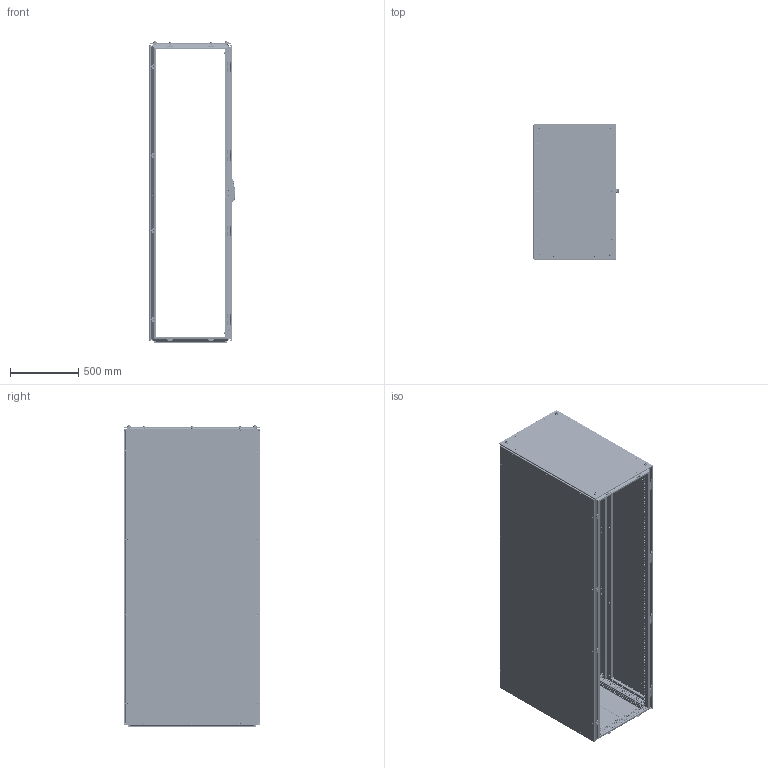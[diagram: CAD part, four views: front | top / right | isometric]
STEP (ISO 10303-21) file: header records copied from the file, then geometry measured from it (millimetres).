
FILE_DESCRIPTION(('STEP AP203'), '1');
FILE_NAME('ØÍÑ ÊÑ PRO II Êîðïóñ ÑÁ', '', ('UNSPECIFIED'), ('UNSPECIFIED'), 'C3D Converter', 'C3D Toolkit', '');
FILE_SCHEMA(('CONFIG_CONTROL_DESIGN'));
Length unit declared in the file: millimetre
Products named in the file (56): 3210.220.100.60; 3000; 3007.175; 3007.75; 3007.200; 3006; 3009.04; 3009.04.01; 3009.04.2; 3009.04.01.2; 3301; 3310; 3311; 3302; 3211; 3409; 3415; 3425; 3426; 3422.01; 3412; 3411; 2952; 3009.05; 3009.05.01; 3622.01; 3417; 3427; 3010
Assembly tree (393 placements, depth 6):
  3210.220.100.60
    3000
      3000
      (unnamed)  x96
      3007.175  x2
      (unnamed)  x22
      3007.75  x2
      3007.200  x2
      3006
      3009.04  x10
        3009.04.01
        (unnamed)
        (unnamed)
      3009.04.2  x15
        3009.04.01.2
        (unnamed)
        (unnamed)
    3301
      3310
        3311
        (unnamed)
      (unnamed)  x10
      (unnamed)  x10
      (unnamed)  x4
      (unnamed)  x4
    3302
      3211
      (unnamed)  x2
      (unnamed)  x14
    3409
      3415
        3425
          3426
          3422.01  x4
          (unnamed)  x12
          (unnamed)  x8
          (unnamed)  x2
        3412  x2
        3411  x2
        (unnamed)  x4
        (unnamed)  x12
        (unnamed)  x20
        (unnamed)  x8
        2952
          (unnamed)
            (unnamed)
            (unnamed)
            (unnamed)
            (unnamed)
            (unnamed)
        (unnamed)  x2
        3009.05  x4
          3009.05.01
          (unnamed)
          (unnamed)
        3622.01  x4
        (unnamed)  x4
      3417
        3427
          3426
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Bounding box: 623.93 x 997 x 2216 mm (x, y, z)
Volume: 14898576 mm3; surface area: 18997725.9 mm2
Topology: 506 solids, 506 shells, 28782 faces, 78824 edges, 51710 vertices
Faces by surface type: plane 18990, cylinder 6951, cone 1563, bspline 691, torus 458, extrusion 90, sphere 39
Full cylindrical faces by diameter (mm): 0.5 x32, 2.6 x8, 3.71 x8, 4.134 x144, 4.3 x2, 4.5 x2602, 4.8 x24, 4.917 x32, 5 x200, 5.2 x1, 5.5 x10, 5.8 x48, 6 x77, 6.1 x8, 6.4 x8, 6.6 x32, 6.75 x32, 6.8 x200, 7 x104, 7.3 x32, 7.5 x92, 8 x132, 8.3 x16, 8.5 x11, 9.2 x82, 10 x45, 10.106 x8, 10.5 x10, 11.5 x14, 12 x44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
Entity records: 717479 total; most frequent: CARTESIAN_POINT 271403, ORIENTED_EDGE 85090, DIRECTION 79421, EDGE_CURVE 42545, VECTOR 32897, LINE 32852, VERTEX_POINT 29781, EDGE_LOOP 28132
